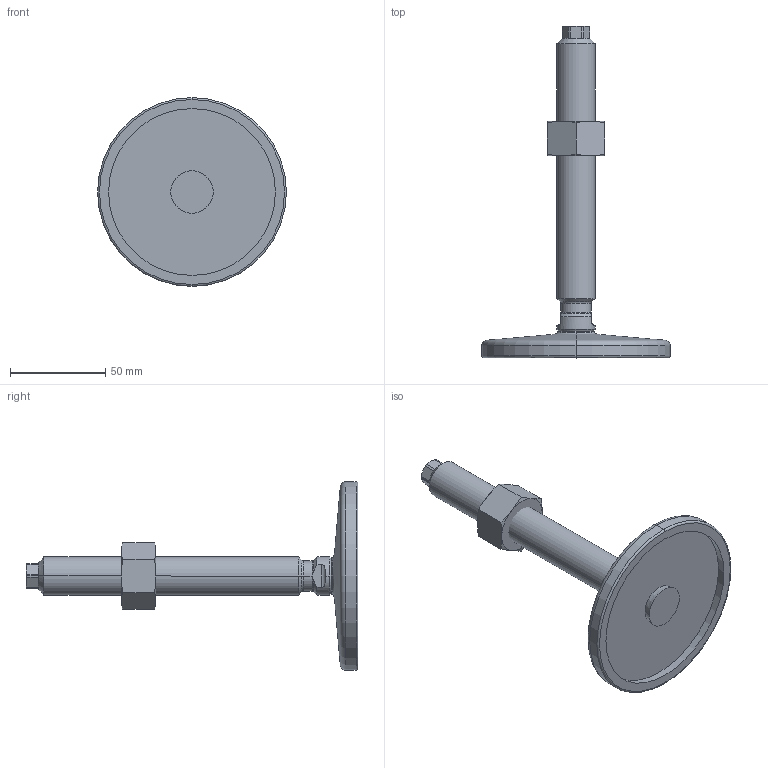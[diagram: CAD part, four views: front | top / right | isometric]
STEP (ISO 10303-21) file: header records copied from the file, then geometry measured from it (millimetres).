
FILE_DESCRIPTION (( 'STEP AP214' ), '1' );
FILE_NAME ('21-100-M20-150-D0-VK.step', '2020-10-02T17:36:59', ( '' ), ( '' ), 'SwSTEP 2.0', 'SolidWorks 2019', '' );
FILE_SCHEMA (( 'AUTOMOTIVE_DESIGN' ));
Length unit declared in the file: millimetre
Products named in the file (4): WB21_Spindel_V^WB21_V_M20-150; 21-100-M20-150-D0-VK; WB21_Fußteller 21^WB21_V_D0-100-R12-B9 (M20); WB4032^WB21_V_M20
Assembly tree (3 placements, depth 2):
  21-100-M20-150-D0-VK
    WB21_Fußteller 21^WB21_V_D0-100-R12-B9 (M20)
    WB21_Spindel_V^WB21_V_M20-150
    WB4032^WB21_V_M20
Bounding box: 99 x 174.02 x 99 mm (x, y, z)
Volume: 111781.5 mm3; surface area: 34189.6 mm2
Topology: 3 solids, 3 shells, 101 faces, 225 edges, 133 vertices
Faces by surface type: cone 33, plane 29, cylinder 25, torus 10, sphere 4
Entity records: 3164 total; most frequent: CARTESIAN_POINT 737, DIRECTION 492, ORIENTED_EDGE 450, EDGE_CURVE 225, AXIS2_PLACEMENT_3D 212, VERTEX_POINT 133, EDGE_LOOP 106, CIRCLE 105
